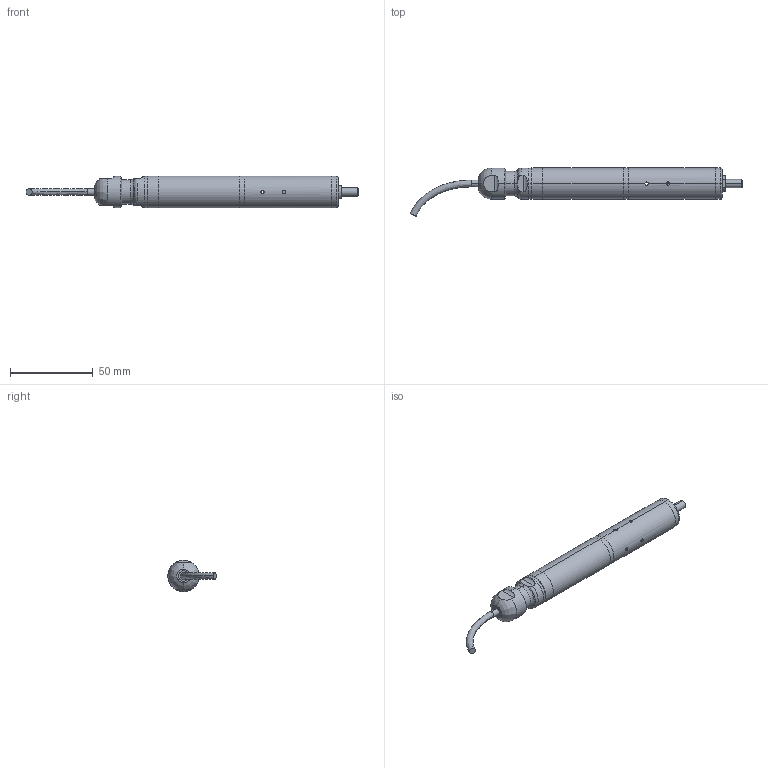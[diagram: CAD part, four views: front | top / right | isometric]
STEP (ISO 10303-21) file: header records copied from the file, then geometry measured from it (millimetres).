
FILE_DESCRIPTION (( 'STEP AP214' ), '1' );
FILE_NAME ('S119-5AL50.STEP', '2025-04-10T10:35:40', ( '' ), ( '' ), 'SwSTEP 2.0', 'SolidWorks 2023', '' );
FILE_SCHEMA (( 'AUTOMOTIVE_DESIGN' ));
Length unit declared in the file: millimetre
Products named in the file (1): S119-5AL50
Bounding box: 200.02 x 29.17 x 19.05 mm (x, y, z)
Surface area: 14685.7 mm2 (no closed solid volume)
Topology: 0 solids, 13 shells, 138 faces, 386 edges, 262 vertices
Faces by surface type: cylinder 70, plane 44, cone 12, torus 8, bspline 4
Entity records: 5442 total; most frequent: CARTESIAN_POINT 1917, DIRECTION 720, ORIENTED_EDGE 688, EDGE_CURVE 386, AXIS2_PLACEMENT_3D 283, VERTEX_POINT 262, EDGE_LOOP 172, VECTOR 154
